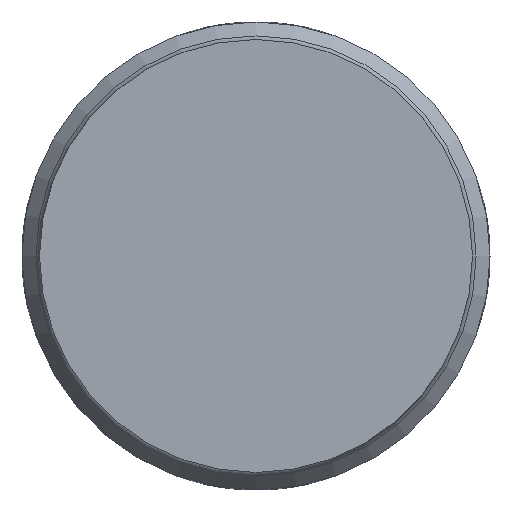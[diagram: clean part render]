
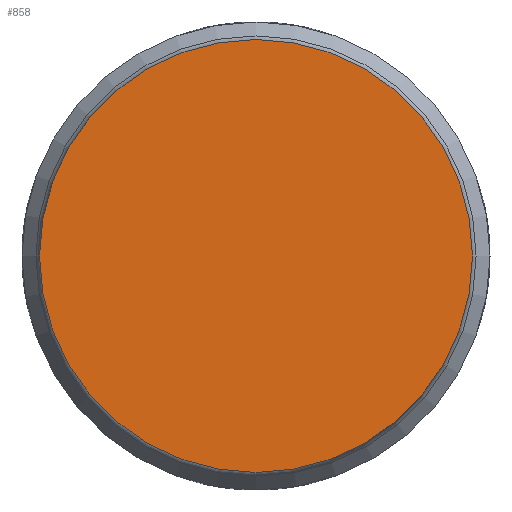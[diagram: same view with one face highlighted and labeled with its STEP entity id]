
A CAD part, left-side view. The second image highlights one B-rep face of the part: STEP entity #858.
In plain terms, the highlighted planar face has unit normal (-1, 0, 0).
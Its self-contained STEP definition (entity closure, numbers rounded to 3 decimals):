
#48=PLANE('',#939);
#67=FACE_OUTER_BOUND('',#112,.T.);
#112=EDGE_LOOP('',(#616,#617));
#164=CIRCLE('',#940,3.7);
#165=CIRCLE('',#941,3.7);
#346=VERTEX_POINT('',#1719);
#347=VERTEX_POINT('',#1720);
#455=EDGE_CURVE('',#346,#347,#164,.T.);
#456=EDGE_CURVE('',#347,#346,#165,.T.);
#616=ORIENTED_EDGE('',*,*,#455,.F.);
#617=ORIENTED_EDGE('',*,*,#456,.F.);
#858=ADVANCED_FACE('',(#67),#48,.T.);
#939=AXIS2_PLACEMENT_3D('',#1718,#1118,#1119);
#940=AXIS2_PLACEMENT_3D('',#1721,#1120,#1121);
#941=AXIS2_PLACEMENT_3D('',#1722,#1122,#1123);
#1118=DIRECTION('center_axis',(-1.,0.,0.));
#1119=DIRECTION('ref_axis',(0.,0.,1.));
#1120=DIRECTION('center_axis',(1.,0.,0.));
#1121=DIRECTION('ref_axis',(0.,0.,-1.));
#1122=DIRECTION('center_axis',(1.,0.,0.));
#1123=DIRECTION('ref_axis',(0.,0.,-1.));
#1718=CARTESIAN_POINT('Origin',(0.,3.7,0.));
#1719=CARTESIAN_POINT('',(0.,3.7,0.));
#1720=CARTESIAN_POINT('',(0.,-3.7,0.));
#1721=CARTESIAN_POINT('Origin',(0.,0.,0.));
#1722=CARTESIAN_POINT('Origin',(0.,0.,0.));
